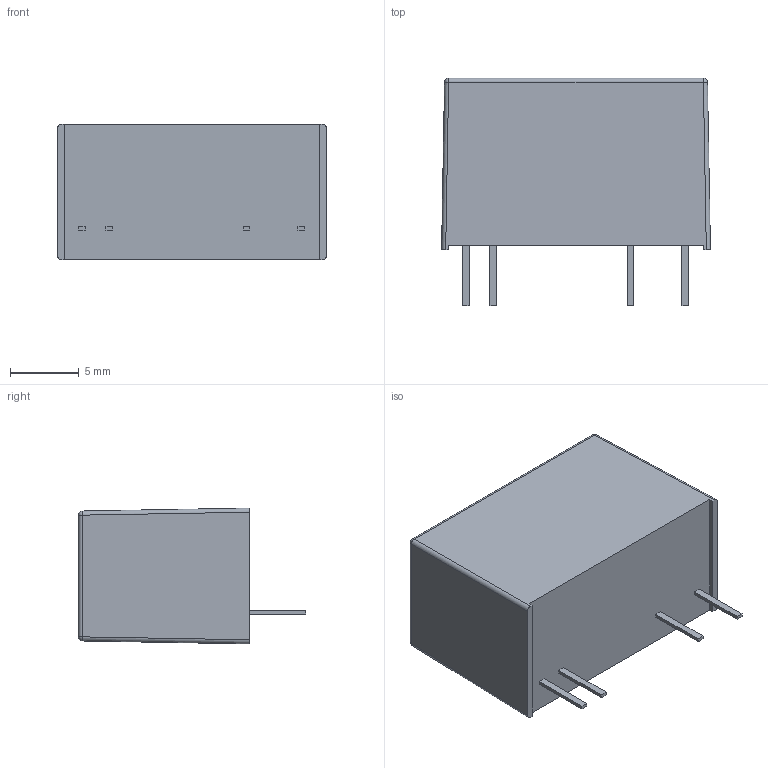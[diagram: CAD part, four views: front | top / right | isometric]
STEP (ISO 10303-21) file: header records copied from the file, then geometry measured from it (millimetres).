
FILE_DESCRIPTION (( 'STEP AP214' ), '1' );
FILE_NAME ('TRV 2M_single output.STEP', '2022-08-18T03:15:32', ( '' ), ( '' ), 'SwSTEP 2.0', 'SolidWorks 2016', '' );
FILE_SCHEMA (( 'AUTOMOTIVE_DESIGN' ));
Length unit declared in the file: millimetre
Products named in the file (1): TRV 2M_single  output
Bounding box: 19.6 x 16.6 x 9.9 mm (x, y, z)
Volume: 2290.8 mm3; surface area: 1109.4 mm2
Topology: 1 solids, 1 shells, 42 faces, 100 edges, 60 vertices
Faces by surface type: plane 30, cylinder 8, sphere 4
Entity records: 1410 total; most frequent: CARTESIAN_POINT 211, ORIENTED_EDGE 192, DIRECTION 190, EDGE_CURVE 96, VECTOR 80, LINE 80, VERTEX_POINT 60, AXIS2_PLACEMENT_3D 55
